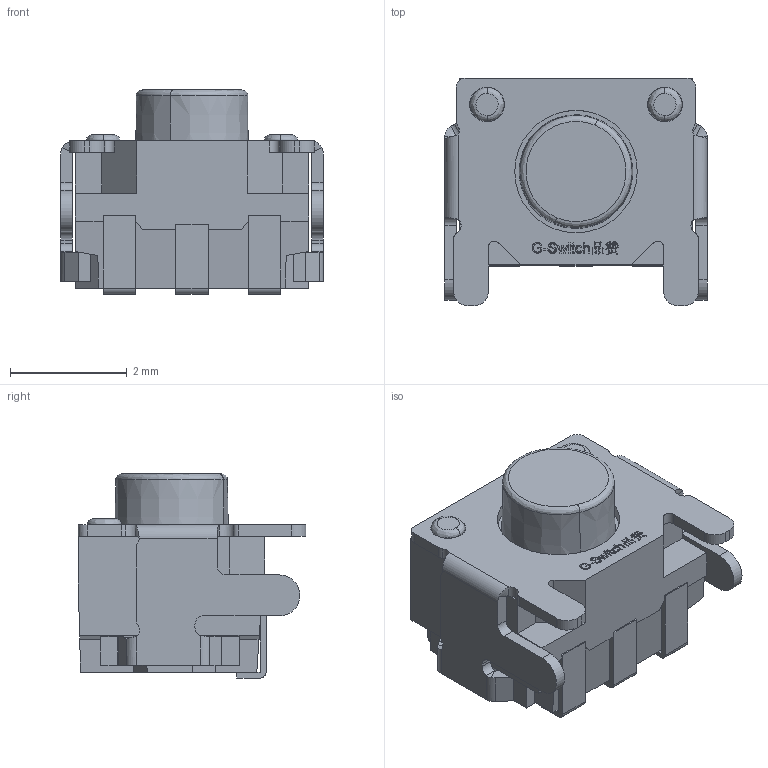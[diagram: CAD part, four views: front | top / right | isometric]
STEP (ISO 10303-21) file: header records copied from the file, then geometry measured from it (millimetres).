
FILE_DESCRIPTION (( 'STEP AP203' ), '1' );
FILE_NAME ('GT-T£Á108X.STEP', '2025-04-02T02:00:21', ( '' ), ( '' ), 'SwSTEP 2.0', 'SolidWorks 2023', '' );
FILE_SCHEMA (( 'CONFIG_CONTROL_DESIGN' ));
Length unit declared in the file: millimetre
Products named in the file (1): GT-TＡ108X
Bounding box: 4.5 x 3.9 x 3.5 mm (x, y, z)
Volume: 31.8 mm3; surface area: 109.2 mm2
Topology: 1 solids, 1 shells, 495 faces, 1377 edges, 901 vertices
Faces by surface type: plane 328, bspline 88, cylinder 69, cone 10
Entity records: 19533 total; most frequent: CARTESIAN_POINT 7250, ORIENTED_EDGE 2750, DIRECTION 2170, EDGE_CURVE 1375, VECTOR 1040, LINE 1040, VERTEX_POINT 901, AXIS2_PLACEMENT_3D 565
